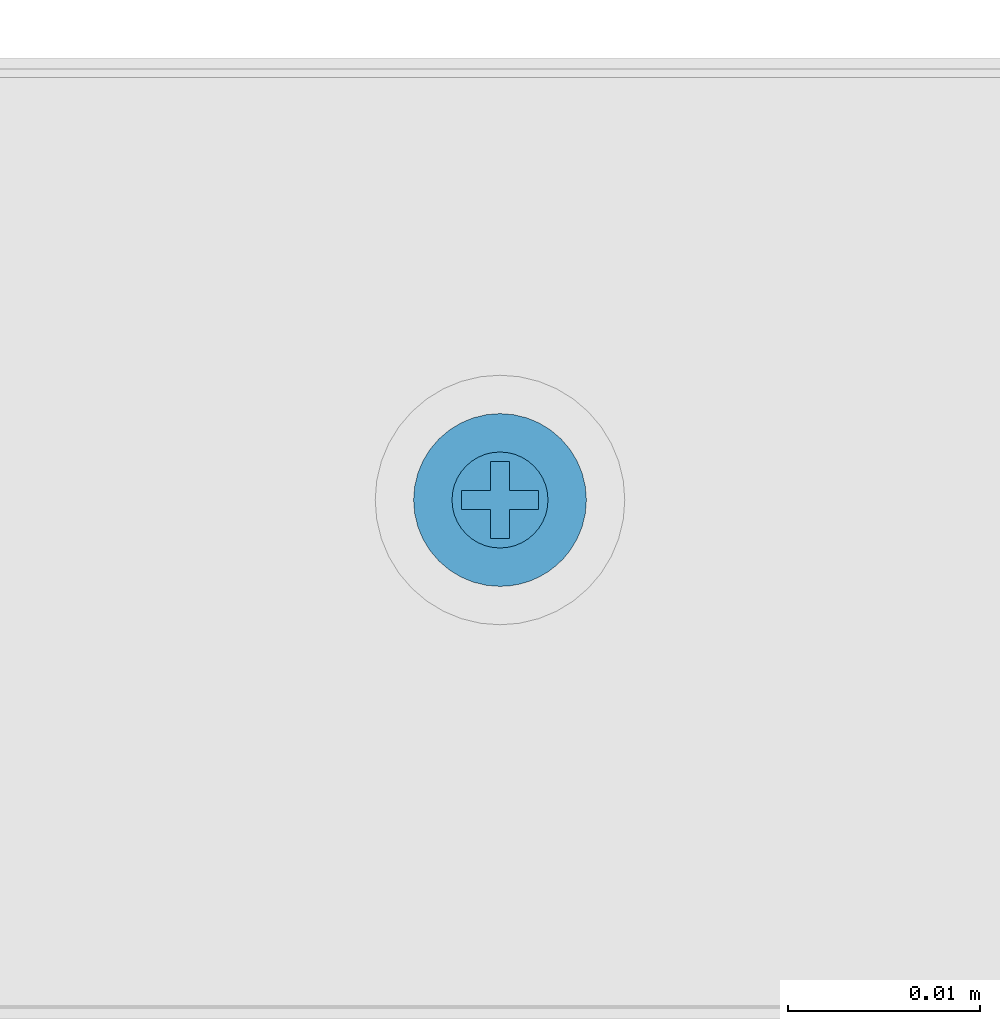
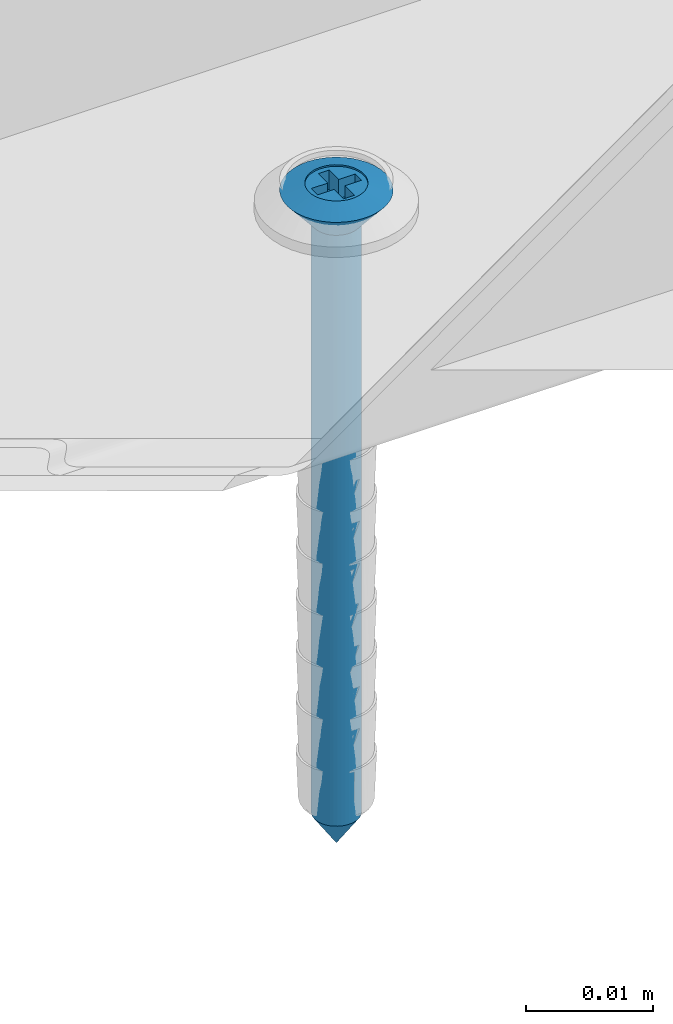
# One storey, part 21 of 43: 1 wall.
"""IFC2X3 building model written with IfcOpenShell, lengths in millimetres."""

from ifc_helpers import new_model, entity, si_unit, converted_unit, direction, frame, origin, origin_with_axes, place, context, project, spatial, faceted_brep, element, save


model = new_model("IFC2X3")

# Units and contexts
model_context = context("Model", 3, precision=1e-05, world=origin(), true_north=direction((0.0, 1.0, 0.0)))
ifc_project = project(units=[si_unit("LENGTHUNIT", "METRE", prefix="MILLI"), si_unit("AREAUNIT", "SQUARE_METRE"), si_unit("VOLUMEUNIT", "CUBIC_METRE"), converted_unit("PLANEANGLEUNIT", "DEGREE", entity("IfcPlaneAngleMeasure", 0.01745), si_unit("PLANEANGLEUNIT", "RADIAN"), dimensions=[0, 0, 0, 0, 0, 0, 0]), si_unit("SOLIDANGLEUNIT", "STERADIAN"), si_unit("MASSUNIT", "GRAM"), si_unit("TIMEUNIT", "SECOND"), si_unit("THERMODYNAMICTEMPERATUREUNIT", "DEGREE_CELSIUS"), si_unit("LUMINOUSINTENSITYUNIT", "LUMEN")], contexts=[model_context])

# Site, building, storey
site_placement = place(None, origin_with_axes())
site = spatial("IfcSite", under=ifc_project, at=site_placement, Name="Default Site", CompositionType="ELEMENT")
building_placement = place(site_placement, origin_with_axes())
building = spatial("IfcBuilding", under=site, at=building_placement, Name="Default Building", CompositionType="ELEMENT")
storey_placement = place(building_placement, origin_with_axes())
storey = spatial("IfcBuildingStorey", under=building, at=storey_placement, Name="Default Building Storey", CompositionType="ELEMENT", Elevation=0.0)

# Wall
wall_placement = place(storey_placement, frame((1642.270412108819, 5447.424146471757, 8.248997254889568), z_axis=(-7.620176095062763e-14, -6.858158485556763e-13, 1.0), x_axis=(-1.0, -9.714451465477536e-17, -7.620176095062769e-14)))
element("IfcWall", 1, at=wall_placement, inside=storey, Name="Kołek rozporowy min. fi 6", context=model_context, shape_type="Brep", body=[
    faceted_brep([(-1438.31414949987, 3453.283223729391, -0.4642567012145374), (-1435.814149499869, 3453.283223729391, -3.464256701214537), (-1435.78952618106, 3452.97035479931, -3.464256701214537), (-1438.258747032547, 3452.57926863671, -0.4642567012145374), (-1435.71626253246, 3452.665189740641, -3.464256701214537), (-1438.093903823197, 3451.892647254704, -0.4642567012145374), (-1435.596162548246, 3452.375242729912, -3.464256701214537), (-1437.823678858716, 3451.240266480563, -0.4642567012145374), (-1435.432183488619, 3452.107653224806, -3.464256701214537), (-1437.454725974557, 3450.638190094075, -0.4642567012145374), (-1435.228363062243, 3451.869010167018, -3.464256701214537), (-1436.996130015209, 3450.101243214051, -0.4642567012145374), (-1434.989720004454, 3451.665189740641, -3.464256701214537), (-1436.459183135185, 3449.642647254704, -0.4642567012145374), (-1434.722130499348, 3451.501210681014, -3.464256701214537), (-1435.857106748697, 3449.273694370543, -0.4642567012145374), (-1434.432183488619, 3451.381110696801, -3.464256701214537), (-1435.204725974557, 3449.003469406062, -0.4642567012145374), (-1434.12701842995, 3451.307847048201, -3.464256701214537), (-1434.51810459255, 3448.838626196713, -0.4642567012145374), (-1433.814149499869, 3451.283223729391, -3.464256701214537), (-1433.814149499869, 3448.783223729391, -0.4642567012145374), (-1433.501280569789, 3451.307847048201, -3.464256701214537), (-1433.110194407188, 3448.838626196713, -0.4642567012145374), (-1433.19611551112, 3451.381110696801, -3.464256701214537), (-1432.423573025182, 3449.003469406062, -0.4642567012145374), (-1432.906168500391, 3451.501210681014, -3.464256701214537), (-1431.771192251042, 3449.273694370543, -0.4642567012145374), (-1432.638578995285, 3451.665189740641, -3.464256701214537), (-1431.169115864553, 3449.642647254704, -0.4642567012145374), (-1432.399935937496, 3451.869010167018, -3.464256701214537), (-1430.63216898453, 3450.101243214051, -0.4642567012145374), (-1432.196115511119, 3452.107653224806, -3.464256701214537), (-1430.173573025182, 3450.638190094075, -0.4642567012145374), (-1432.032136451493, 3452.375242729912, -3.464256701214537), (-1429.804620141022, 3451.240266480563, -0.4642567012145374), (-1431.912036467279, 3452.665189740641, -3.464256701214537), (-1429.534395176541, 3451.892647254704, -0.4642567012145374), (-1431.838772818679, 3453.596092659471, -3.464256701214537), (-1429.369551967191, 3453.987178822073, -0.4642567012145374), (-1429.314149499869, 3453.283223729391, -0.4642567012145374), (-1431.81414949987, 3453.283223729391, -3.464256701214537), (-1429.369551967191, 3452.57926863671, -0.4642567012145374), (-1431.838772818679, 3452.97035479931, -3.464256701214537), (-1431.912036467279, 3453.901257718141, -3.464256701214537), (-1429.534395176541, 3454.673800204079, -0.4642567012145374), (-1432.032136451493, 3454.19120472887, -3.464256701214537), (-1429.804620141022, 3455.326180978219, -0.4642567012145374), (-1432.196115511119, 3454.458794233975, -3.464256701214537), (-1430.173573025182, 3455.928257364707, -0.4642567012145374), (-1432.399935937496, 3454.697437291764, -3.464256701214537), (-1430.63216898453, 3456.465204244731, -0.4642567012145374), (-1432.638578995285, 3454.901257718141, -3.464256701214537), (-1431.169115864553, 3456.923800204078, -0.4642567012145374), (-1432.906168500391, 3455.065236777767, -3.464256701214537), (-1431.771192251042, 3457.292753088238, -0.4642567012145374), (-1433.19611551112, 3455.185336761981, -3.464256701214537), (-1432.423573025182, 3457.562978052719, -0.4642567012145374), (-1433.501280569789, 3455.258600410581, -3.464256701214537), (-1433.110194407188, 3457.727821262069, -0.4642567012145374), (-1433.814149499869, 3455.283223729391, -3.464256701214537), (-1433.814149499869, 3457.783223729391, -0.4642567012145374), (-1434.34306778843, 3457.752031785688, -0.4642567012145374), (-1434.12701842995, 3455.258600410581, -3.464256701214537), (-1434.432183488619, 3455.185336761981, -3.464256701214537), (-1434.864653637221, 3457.658888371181, -0.4642567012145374), (-1435.371676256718, 3457.505084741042, -0.4642567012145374), (-1434.722130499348, 3455.065236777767, -3.464256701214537), (-1435.857106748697, 3457.292753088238, -0.4642567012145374), (-1434.989720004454, 3454.901257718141, -3.464256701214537), (-1435.228363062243, 3454.697437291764, -3.464256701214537), (-1436.314215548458, 3457.024836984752, -0.4642567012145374), (-1436.736665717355, 3456.705050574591, -0.4642567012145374), (-1437.11860079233, 3456.337827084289, -0.4642567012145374), (-1437.454725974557, 3455.928257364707, -0.4642567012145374), (-1435.432183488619, 3454.458794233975, -3.464256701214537), (-1435.596162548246, 3454.19120472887, -3.464256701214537), (-1437.823678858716, 3455.326180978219, -0.4642567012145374), (-1435.71626253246, 3453.901257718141, -3.464256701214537), (-1438.093903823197, 3454.673800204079, -0.4642567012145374), (-1435.78952618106, 3453.596092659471, -3.464256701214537), (-1438.258747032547, 3453.987178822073, -0.4642567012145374), (-1434.205235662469, 3455.752444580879, 0.2007375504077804), (-1433.814149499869, 3455.78322372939, 0.2007375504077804), (-1434.586691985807, 3455.660865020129, 0.2007375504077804), (-1434.949125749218, 3455.510740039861, 0.2007375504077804), (-1435.283612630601, 3455.305766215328, 0.2007375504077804), (-1435.581916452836, 3455.050990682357, 0.2007375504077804), (-1435.836691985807, 3454.752686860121, 0.2007375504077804), (-1436.04166581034, 3454.41819997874, 0.2007375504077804), (-1436.191790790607, 3454.055766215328, 0.2007375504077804), (-1436.283370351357, 3453.674309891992, 0.2007375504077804), (-1436.314149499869, 3453.283223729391, 0.2007375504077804), (-1436.283370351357, 3452.892137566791, 0.2007375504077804), (-1436.191790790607, 3452.510681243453, 0.2007375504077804), (-1436.04166581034, 3452.148247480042, 0.2007375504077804), (-1435.836691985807, 3451.81376059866, 0.200737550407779), (-1435.581916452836, 3451.515456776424, 0.2007375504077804), (-1435.283612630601, 3451.260681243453, 0.2007375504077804), (-1434.949125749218, 3451.05570741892, 0.2007375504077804), (-1434.586691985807, 3450.905582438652, 0.2007375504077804), (-1433.423063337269, 3450.814002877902, 0.2007375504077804), (-1433.814149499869, 3450.783223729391, 0.2007375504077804), (-1434.205235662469, 3450.814002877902, 0.2007375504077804), (-1433.041607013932, 3450.905582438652, 0.2007375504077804), (-1432.67917325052, 3451.05570741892, 0.2007375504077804), (-1432.344686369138, 3451.260681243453, 0.2007375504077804), (-1432.046382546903, 3451.515456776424, 0.2007375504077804), (-1431.791607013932, 3451.81376059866, 0.2007375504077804), (-1431.586633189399, 3452.148247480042, 0.2007375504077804), (-1431.436508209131, 3452.510681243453, 0.2007375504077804), (-1431.344928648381, 3452.892137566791, 0.2007375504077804), (-1431.314149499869, 3453.283223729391, 0.2007375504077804), (-1431.344928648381, 3453.674309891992, 0.2007375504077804), (-1431.436508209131, 3454.055766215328, 0.2007375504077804), (-1431.586633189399, 3454.41819997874, 0.2007375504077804), (-1431.791607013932, 3454.752686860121, 0.2007375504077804), (-1432.046382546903, 3455.050990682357, 0.2007375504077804), (-1432.344686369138, 3455.305766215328, 0.2007375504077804), (-1432.67917325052, 3455.510740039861, 0.2007375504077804), (-1433.041607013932, 3455.660865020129, 0.2007375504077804), (-1433.423063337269, 3455.752444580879, 0.2007375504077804), (-1433.814149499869, 3453.283223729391, -63.46425670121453), (-1435.789526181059, 3452.97035479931, -60.46425670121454), (-1435.814149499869, 3453.283223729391, -60.46425670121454), (-1435.716262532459, 3452.665189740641, -60.46425670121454), (-1435.596162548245, 3452.375242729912, -60.46425670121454), (-1435.432183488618, 3452.107653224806, -60.46425670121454), (-1435.228363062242, 3451.869010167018, -60.46425670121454), (-1434.989720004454, 3451.665189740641, -60.46425670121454), (-1434.722130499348, 3451.501210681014, -60.46425670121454), (-1434.432183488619, 3451.381110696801, -60.46425670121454), (-1434.127018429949, 3451.307847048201, -60.46425670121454), (-1433.814149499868, 3451.283223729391, -60.46425670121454), (-1433.501280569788, 3451.307847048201, -60.46425670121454), (-1433.196115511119, 3451.381110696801, -60.46425670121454), (-1432.90616850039, 3451.501210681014, -60.46425670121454), (-1432.638578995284, 3451.665189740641, -60.46425670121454), (-1432.399935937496, 3451.869010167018, -60.46425670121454), (-1432.196115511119, 3452.107653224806, -60.46425670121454), (-1432.032136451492, 3452.375242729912, -60.46425670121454), (-1431.912036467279, 3452.665189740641, -60.46425670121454), (-1431.838772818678, 3452.97035479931, -60.46425670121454), (-1431.814149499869, 3453.283223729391, -60.46425670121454), (-1431.838772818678, 3453.596092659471, -60.46425670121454), (-1431.912036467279, 3453.901257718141, -60.46425670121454), (-1432.032136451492, 3454.19120472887, -60.46425670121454), (-1432.196115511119, 3454.458794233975, -60.46425670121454), (-1432.399935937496, 3454.697437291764, -60.46425670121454), (-1432.638578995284, 3454.901257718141, -60.46425670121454), (-1432.90616850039, 3455.065236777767, -60.46425670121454), (-1433.196115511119, 3455.185336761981, -60.46425670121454), (-1433.501280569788, 3455.258600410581, -60.46425670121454), (-1433.814149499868, 3455.283223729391, -60.46425670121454), (-1434.127018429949, 3455.258600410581, -60.46425670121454), (-1434.432183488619, 3455.185336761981, -60.46425670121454), (-1434.722130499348, 3455.065236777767, -60.46425670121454), (-1434.989720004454, 3454.901257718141, -60.46425670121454), (-1435.228363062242, 3454.697437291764, -60.46425670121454), (-1435.432183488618, 3454.458794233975, -60.46425670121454), (-1435.596162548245, 3454.19120472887, -60.46425670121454), (-1435.716262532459, 3453.901257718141, -60.46425670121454), (-1435.789526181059, 3453.596092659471, -60.46425670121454), (-1435.814149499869, 3453.783223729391, 0.04999999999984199), (-1436.04166581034, 3454.41819997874, 0.04999999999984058), (-1436.191790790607, 3454.055766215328, 0.04999999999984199), (-1435.814149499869, 3452.783223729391, 0.04999999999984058), (-1434.314149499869, 3453.783223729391, 0.04999999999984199), (-1434.314149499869, 3455.28322372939, 0.04999999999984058), (-1433.314149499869, 3455.28322372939, 0.04999999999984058), (-1433.314149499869, 3453.783223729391, 0.04999999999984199), (-1431.814149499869, 3453.783223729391, 0.04999999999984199), (-1431.814149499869, 3452.783223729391, 0.04999999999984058), (-1433.314149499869, 3452.783223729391, 0.04999999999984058), (-1433.314149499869, 3451.283223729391, 0.04999999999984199), (-1434.314149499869, 3451.283223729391, 0.04999999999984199), (-1434.314149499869, 3452.783223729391, 0.04999999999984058), (-1436.283370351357, 3453.674309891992, 0.04999999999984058), (-1436.314149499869, 3453.283223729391, 0.04999999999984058), (-1436.283370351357, 3452.892137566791, 0.04999999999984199), (-1436.191790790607, 3452.510681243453, 0.04999999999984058), (-1436.04166581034, 3452.148247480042, 0.04999999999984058), (-1435.836691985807, 3451.81376059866, 0.04999999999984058), (-1435.581916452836, 3451.515456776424, 0.04999999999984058), (-1435.283612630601, 3451.260681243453, 0.04999999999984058), (-1434.949125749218, 3451.05570741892, 0.04999999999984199), (-1434.586691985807, 3450.905582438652, 0.04999999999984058), (-1434.205235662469, 3450.814002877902, 0.04999999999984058), (-1433.814149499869, 3450.783223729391, 0.04999999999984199), (-1433.423063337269, 3450.814002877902, 0.04999999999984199), (-1433.041607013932, 3450.905582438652, 0.04999999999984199), (-1432.67917325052, 3451.05570741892, 0.04999999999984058), (-1432.344686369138, 3451.260681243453, 0.04999999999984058), (-1432.046382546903, 3451.515456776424, 0.04999999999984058), (-1431.791607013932, 3451.81376059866, 0.04999999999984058), (-1431.586633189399, 3452.148247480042, 0.04999999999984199), (-1431.436508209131, 3452.510681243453, 0.04999999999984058), (-1431.344928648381, 3452.892137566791, 0.04999999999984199), (-1431.314149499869, 3453.283223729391, 0.04999999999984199), (-1431.344928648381, 3453.674309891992, 0.04999999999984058), (-1431.436508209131, 3454.055766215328, 0.04999999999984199), (-1431.586633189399, 3454.41819997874, 0.04999999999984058), (-1431.791607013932, 3454.752686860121, 0.04999999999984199), (-1432.046382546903, 3455.050990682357, 0.04999999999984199), (-1432.344686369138, 3455.305766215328, 0.04999999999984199), (-1432.67917325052, 3455.510740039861, 0.04999999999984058), (-1433.041607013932, 3455.660865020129, 0.04999999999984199), (-1433.423063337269, 3455.752444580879, 0.04999999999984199), (-1433.814149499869, 3455.78322372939, 0.04999999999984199), (-1434.205235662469, 3455.752444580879, 0.04999999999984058), (-1434.586691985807, 3455.660865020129, 0.04999999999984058), (-1434.949125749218, 3455.510740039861, 0.04999999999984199), (-1435.283612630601, 3455.305766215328, 0.04999999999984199), (-1435.581916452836, 3455.050990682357, 0.04999999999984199), (-1435.836691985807, 3454.752686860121, 0.04999999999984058), (-1434.314149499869, 3452.783223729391, -1.79926244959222), (-1434.314149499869, 3451.283223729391, -1.799262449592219), (-1433.314149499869, 3451.283223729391, -1.799262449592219), (-1433.314149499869, 3452.783223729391, -1.79926244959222), (-1431.81414949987, 3452.783223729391, -1.79926244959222), (-1431.81414949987, 3453.783223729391, -1.799262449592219), (-1433.314149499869, 3453.783223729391, -1.799262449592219), (-1433.314149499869, 3455.28322372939, -1.79926244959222), (-1434.314149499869, 3455.28322372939, -1.79926244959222), (-1434.314149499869, 3453.783223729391, -1.799262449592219), (-1435.814149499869, 3453.783223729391, -1.799262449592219), (-1435.814149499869, 3452.783223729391, -1.79926244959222)], [[[0, 1, 2, 3]], [[4, 5, 3, 2]], [[6, 7, 5, 4]], [[7, 6, 8, 9]], [[10, 11, 9, 8]], [[11, 10, 12, 13]], [[14, 15, 13, 12]], [[16, 17, 15, 14]], [[17, 16, 18, 19]], [[20, 21, 19, 18]], [[21, 20, 22, 23]], [[24, 25, 23, 22]], [[26, 27, 25, 24]], [[27, 26, 28, 29]], [[30, 31, 29, 28]], [[31, 30, 32, 33]], [[34, 35, 33, 32]], [[36, 37, 35, 34]], [[38, 39, 40, 41]], [[41, 40, 42, 43]], [[37, 36, 43, 42]], [[44, 45, 39, 38]], [[46, 47, 45, 44]], [[47, 46, 48, 49]], [[50, 51, 49, 48]], [[51, 50, 52, 53]], [[54, 55, 53, 52]], [[56, 57, 55, 54]], [[57, 56, 58, 59]], [[60, 61, 59, 58]], [[62, 61, 63]], [[61, 60, 63]], [[63, 64, 62]], [[64, 65, 62]], [[66, 65, 64]], [[64, 67, 66]], [[67, 68, 66]], [[69, 70, 71]], [[70, 72, 71]], [[71, 68, 69]], [[68, 67, 69]], [[70, 73, 72]], [[74, 73, 75]], [[73, 70, 75]], [[76, 77, 74, 75]], [[78, 79, 77, 76]], [[79, 78, 80, 81]], [[1, 0, 81, 80]], [[82, 83, 62]], [[83, 61, 62]], [[62, 65, 82]], [[65, 84, 82]], [[66, 68, 84]], [[68, 85, 84]], [[84, 65, 66]], [[86, 85, 71]], [[85, 68, 71]], [[72, 73, 87]], [[87, 86, 72]], [[86, 71, 72]], [[88, 87, 74]], [[87, 73, 74]], [[77, 89, 88, 74]], [[79, 90, 89, 77]], [[90, 79, 81, 91]], [[0, 92, 91, 81]], [[92, 0, 3, 93]], [[5, 94, 93, 3]], [[7, 95, 94, 5]], [[95, 7, 9, 96]], [[11, 97, 96, 9]], [[97, 11, 13, 98]], [[15, 99, 98, 13]], [[17, 100, 99, 15]], [[23, 101, 102, 21]], [[21, 102, 103, 19]], [[100, 17, 19, 103]], [[25, 104, 101, 23]], [[27, 105, 104, 25]], [[105, 27, 29, 106]], [[31, 107, 106, 29]], [[107, 31, 33, 108]], [[35, 109, 108, 33]], [[37, 110, 109, 35]], [[110, 37, 42, 111]], [[40, 112, 111, 42]], [[112, 40, 39, 113]], [[45, 114, 113, 39]], [[47, 115, 114, 45]], [[115, 47, 49, 116]], [[51, 117, 116, 49]], [[117, 51, 53, 118]], [[55, 119, 118, 53]], [[57, 120, 119, 55]], [[120, 57, 59, 121]], [[61, 83, 121, 59]], [[122, 123, 124]], [[122, 125, 123]], [[122, 126, 125]], [[127, 126, 122]], [[122, 128, 127]], [[129, 128, 122]], [[122, 130, 129]], [[122, 131, 130]], [[132, 131, 122]], [[122, 133, 132]], [[134, 133, 122]], [[122, 135, 134]], [[122, 136, 135]], [[137, 136, 122]], [[122, 138, 137]], [[139, 138, 122]], [[122, 140, 139]], [[122, 141, 140]], [[142, 141, 122]], [[122, 143, 142]], [[144, 143, 122]], [[122, 145, 144]], [[122, 146, 145]], [[147, 146, 122]], [[122, 148, 147]], [[149, 148, 122]], [[122, 150, 149]], [[122, 151, 150]], [[152, 151, 122]], [[122, 153, 152]], [[154, 153, 122]], [[122, 155, 154]], [[122, 156, 155]], [[157, 156, 122]], [[122, 158, 157]], [[159, 158, 122]], [[122, 160, 159]], [[122, 161, 160]], [[162, 161, 122]], [[124, 162, 122]], [[1, 124, 123, 2]], [[125, 4, 2, 123]], [[126, 6, 4, 125]], [[6, 126, 127, 8]], [[128, 10, 8, 127]], [[10, 128, 129, 12]], [[130, 14, 12, 129]], [[131, 16, 14, 130]], [[16, 131, 132, 18]], [[133, 20, 18, 132]], [[20, 133, 134, 22]], [[135, 24, 22, 134]], [[136, 26, 24, 135]], [[26, 136, 137, 28]], [[138, 30, 28, 137]], [[30, 138, 139, 32]], [[140, 34, 32, 139]], [[141, 36, 34, 140]], [[144, 38, 41, 143]], [[143, 41, 43, 142]], [[36, 141, 142, 43]], [[145, 44, 38, 144]], [[146, 46, 44, 145]], [[46, 146, 147, 48]], [[148, 50, 48, 147]], [[50, 148, 149, 52]], [[150, 54, 52, 149]], [[151, 56, 54, 150]], [[56, 151, 152, 58]], [[153, 60, 58, 152]], [[60, 153, 154, 63]], [[155, 64, 63, 154]], [[156, 67, 64, 155]], [[67, 156, 157, 69]], [[158, 70, 69, 157]], [[70, 158, 159, 75]], [[160, 76, 75, 159]], [[161, 78, 76, 160]], [[78, 161, 162, 80]], [[124, 1, 80, 162]], [[163, 164, 165, 166]], [[163, 167, 168, 169, 170, 171, 172, 173, 174, 175, 176, 166, 165, 177, 178, 179, 180, 181, 182, 183, 184, 185, 186, 187, 188, 189, 190, 191, 192, 193, 194, 195, 196, 197, 198, 199, 200, 201, 202, 203, 204, 205, 206, 207, 208, 209, 210, 211, 212, 213, 214, 164]], [[199, 198, 112, 113]], [[113, 114, 200, 199]], [[114, 115, 201, 200]], [[202, 201, 115, 116]], [[116, 117, 203, 202]], [[204, 203, 117, 118]], [[118, 119, 205, 204]], [[119, 120, 206, 205]], [[207, 206, 120, 121]], [[121, 83, 208, 207]], [[209, 208, 83, 82]], [[82, 84, 210, 209]], [[84, 85, 211, 210]], [[212, 211, 85, 86]], [[86, 87, 213, 212]], [[214, 213, 87, 88]], [[88, 89, 164, 214]], [[89, 90, 165, 164]], [[92, 93, 179, 178]], [[91, 92, 178, 177]], [[177, 165, 90, 91]], [[93, 94, 180, 179]], [[94, 95, 181, 180]], [[182, 181, 95, 96]], [[96, 97, 183, 182]], [[184, 183, 97, 98]], [[98, 99, 185, 184]], [[99, 100, 186, 185]], [[187, 186, 100, 103]], [[103, 102, 188, 187]], [[189, 188, 102, 101]], [[101, 104, 190, 189]], [[104, 105, 191, 190]], [[192, 191, 105, 106]], [[106, 107, 193, 192]], [[194, 193, 107, 108]], [[108, 109, 195, 194]], [[109, 110, 196, 195]], [[197, 196, 110, 111]], [[111, 112, 198, 197]], [[215, 216, 217, 218, 219, 220, 221, 222, 223, 224, 225, 226]], [[216, 175, 174, 217]], [[215, 176, 175, 216]], [[226, 166, 176, 215]], [[225, 163, 166, 226]], [[224, 167, 163, 225]], [[223, 168, 167, 224]], [[222, 169, 168, 223]], [[221, 170, 169, 222]], [[220, 171, 170, 221]], [[219, 172, 171, 220]], [[218, 173, 172, 219]], [[217, 174, 173, 218]]]),
])

save(model, "model.ifc")
